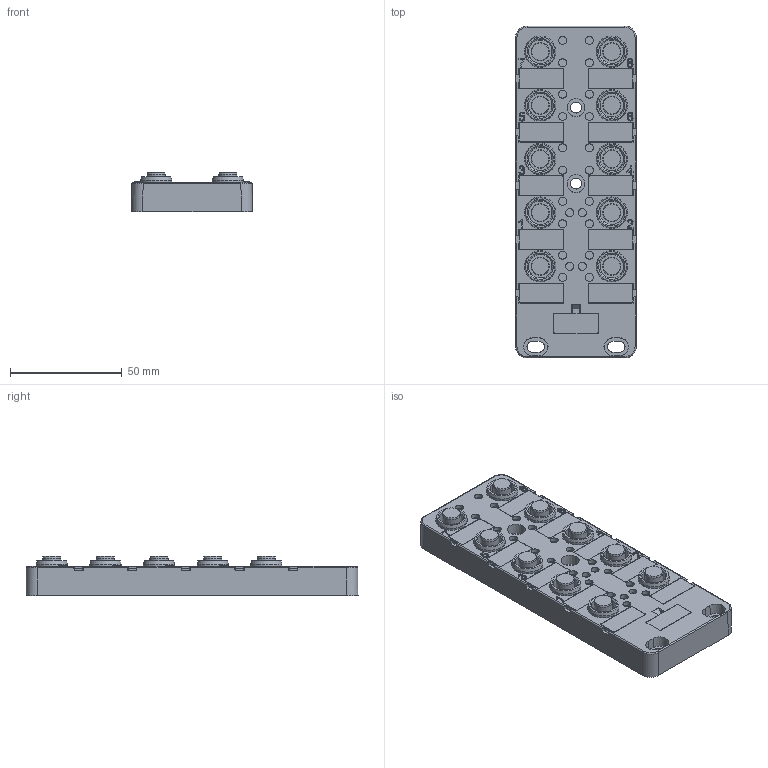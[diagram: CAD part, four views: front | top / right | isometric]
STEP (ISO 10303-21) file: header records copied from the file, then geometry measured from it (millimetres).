
FILE_DESCRIPTION((''),'2;1');
FILE_NAME('C:\Users\enrico\Desktop\Ale\Sito Web Mintec\AUTOMAZIONE_2020\FOTO & STEP Distributori passivi_ciabatte\A cablare\step\M12\ciabatta M12 10 vie a cablare no cavo.stp','2020-08-31T10:04:02',('Tecnico2'),(''),'Autodesk Inventor 2012','Autodesk Inventor 2012','');
FILE_SCHEMA(('AUTOMOTIVE_DESIGN { 1 0 10303 214 1 1 1 1 }'));
Length unit declared in the file: millimetre
Products named in the file (5): 47179-100; Ciab+10vie_M12x1_no cavo; 270101101_ins_fe NEUTRO; 0606725NI (ghiera femmina M12); 2701003BI targhettina ciabatte
Assembly tree (32 placements, depth 2):
  47179-100
    Ciab+10vie_M12x1_no cavo
    270101101_ins_fe NEUTRO  x10
    0606725NI (ghiera femmina M12)  x10
    2701003BI targhettina ciabatte  x11
Bounding box: 54 x 148.5 x 17.5 mm (x, y, z)
Volume: 72114.6 mm3; surface area: 66008.3 mm2
Topology: 32 solids, 38 shells, 2775 faces, 7581 edges, 5029 vertices
Faces by surface type: plane 1862, cylinder 478, cone 250, bspline 181, torus 4
Full cylindrical faces by diameter (mm): 0.876 x1, 3.6 x24, 4.811 x2, 8.2 x10, 10.8 x20, 14 x20
Entity records: 59445 total; most frequent: CARTESIAN_POINT 15873, ORIENTED_EDGE 9350, DIRECTION 8189, EDGE_CURVE 4675, VECTOR 3439, LINE 3439, VERTEX_POINT 3159, AXIS2_PLACEMENT_3D 2375
